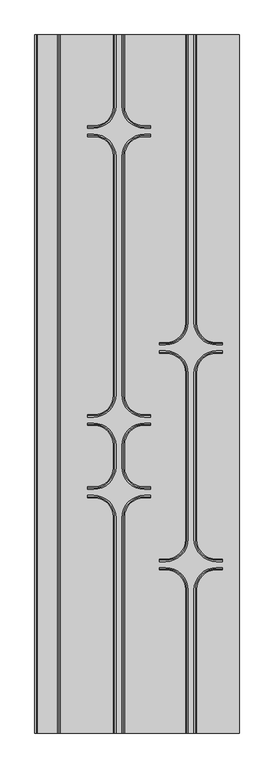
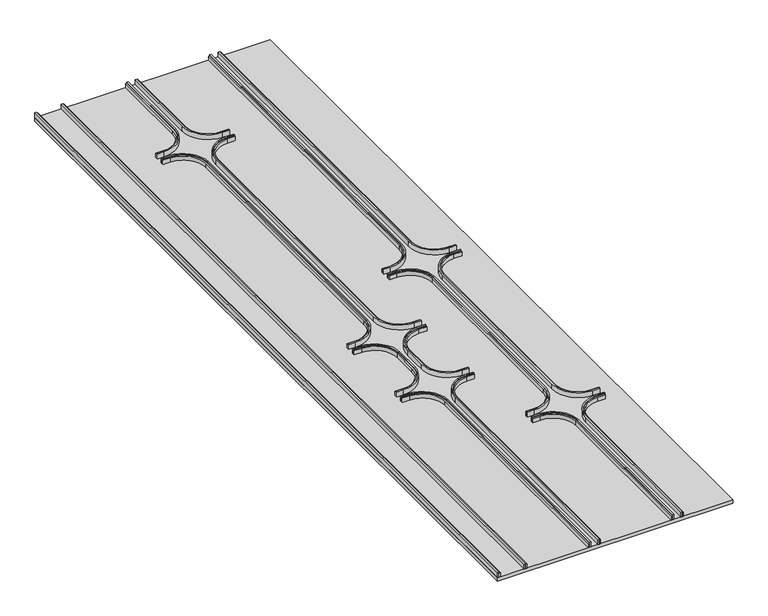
"""IFC4 building model written with IfcOpenShell, lengths in millimetres: proxy geometry, FilzFelt_Ion : Ion C."""

from ifc_helpers import new_model, si_unit, point, frame, frame_2d, origin, origin_with_axes, place, context, project, spatial, polyline, circle_curve, trimmed, segment, composite_curve, outline, extrude, source, transform, mapped, element, save


def specialty_equipment_a84f635a(model_context):
    return source(origin(), model_context, "Body", "SweptSolid", [
        extrude(outline(polyline([(-421.8, 2946.4), (-421.8, 0.0), (-426.8, 0.0), (-426.8, 2946.4), (-421.8, 2946.4)])), frame((0.0, 0.0, 13.0), z_axis=(0.0, 0.0, 1.0), x_axis=(1.0, 0.0, 0.0)), (0.0, 0.0, 1.0), 16.0),
        extrude(outline(composite_curve([segment(trimmed(circle_curve(frame_2d((-182.8, 2646.6)), 88.9), [point((-93.9, 2646.6))], [point((-182.8, 2557.7))], False, "CARTESIAN"), True, "CONTINUOUS"), segment(polyline([(-182.8, 2557.7), (-209.55, 2557.7), (-209.55, 2562.7), (-181.45, 2562.7)]), True, "CONTINUOUS"), segment(trimmed(circle_curve(frame_2d((-181.45, 2645.25)), 82.55), [point((-181.45, 2562.7))], [point((-98.9, 2645.25))], True, "CARTESIAN"), True, "CONTINUOUS"), segment(polyline([(-98.9, 2645.25), (-98.9, 2946.4), (-93.9, 2946.4), (-93.9, 2646.6)]), True, "CONTINUOUS")], self_intersect=False)), frame((0.0, 0.0, 13.0), z_axis=(0.0, 0.0, 1.0), x_axis=(1.0, 0.0, 0.0)), (0.0, 0.0, 1.0), 16.0),
        extrude(outline(composite_curve([segment(trimmed(circle_curve(frame_2d((-182.8, 2433.4)), 88.9), [point((-182.8, 2522.3))], [point((-93.9, 2433.4))], False, "CARTESIAN"), True, "CONTINUOUS"), segment(polyline([(-93.9, 2433.4), (-93.9, 1427.4)]), True, "CONTINUOUS"), segment(trimmed(circle_curve(frame_2d((-182.8, 1427.4)), 88.9), [point((-93.9, 1427.4))], [point((-182.8, 1338.5))], False, "CARTESIAN"), True, "CONTINUOUS"), segment(polyline([(-182.8, 1338.5), (-209.55, 1338.5), (-209.55, 1343.5), (-181.45, 1343.5)]), True, "CONTINUOUS"), segment(trimmed(circle_curve(frame_2d((-181.45, 1426.05)), 82.55), [point((-181.45, 1343.5))], [point((-98.9, 1426.05))], True, "CARTESIAN"), True, "CONTINUOUS"), segment(polyline([(-98.9, 1426.05), (-98.9, 2434.75)]), True, "CONTINUOUS"), segment(trimmed(circle_curve(frame_2d((-181.45, 2434.75)), 82.55), [point((-98.9, 2434.75))], [point((-181.45, 2517.3))], True, "CARTESIAN"), True, "CONTINUOUS"), segment(polyline([(-181.45, 2517.3), (-209.55, 2517.3), (-209.55, 2522.3), (-182.8, 2522.3)]), True, "CONTINUOUS")], self_intersect=False)), frame((0.0, 0.0, 13.0), z_axis=(0.0, 0.0, 1.0), x_axis=(1.0, 0.0, 0.0)), (0.0, 0.0, 1.0), 16.0),
        extrude(outline(composite_curve([segment(trimmed(circle_curve(frame_2d((-182.8, 1122.6)), 88.9), [point((-93.9, 1122.6))], [point((-182.8, 1033.7))], False, "CARTESIAN"), True, "CONTINUOUS"), segment(polyline([(-182.8, 1033.7), (-209.55, 1033.7), (-209.55, 1038.7), (-181.45, 1038.7)]), True, "CONTINUOUS"), segment(trimmed(circle_curve(frame_2d((-181.45, 1121.25)), 82.55), [point((-181.45, 1038.7))], [point((-98.9, 1121.25))], True, "CARTESIAN"), True, "CONTINUOUS"), segment(polyline([(-98.9, 1121.25), (-98.9, 1215.55)]), True, "CONTINUOUS"), segment(trimmed(circle_curve(frame_2d((-181.45, 1215.55)), 82.55), [point((-98.9, 1215.55))], [point((-181.45, 1298.1))], True, "CARTESIAN"), True, "CONTINUOUS"), segment(polyline([(-181.45, 1298.1), (-209.55, 1298.1), (-209.55, 1303.1), (-182.8, 1303.1)]), True, "CONTINUOUS"), segment(trimmed(circle_curve(frame_2d((-182.8, 1214.2)), 88.9), [point((-182.8, 1303.1))], [point((-93.9, 1214.2))], False, "CARTESIAN"), True, "CONTINUOUS"), segment(polyline([(-93.9, 1214.2), (-93.9, 1122.6)]), True, "CONTINUOUS")], self_intersect=False)), frame((0.0, 0.0, 13.0), z_axis=(0.0, 0.0, 1.0), x_axis=(1.0, 0.0, 0.0)), (0.0, 0.0, 1.0), 16.0),
        extrude(outline(composite_curve([segment(trimmed(circle_curve(frame_2d((-182.8, 909.4)), 88.9), [point((-182.8, 998.3))], [point((-93.9, 909.4))], False, "CARTESIAN"), True, "CONTINUOUS"), segment(polyline([(-93.9, 909.4), (-93.9, 0.0), (-98.9, 0.0), (-98.9, 910.75)]), True, "CONTINUOUS"), segment(trimmed(circle_curve(frame_2d((-181.45, 910.75)), 82.55), [point((-98.9, 910.75))], [point((-181.45, 993.3))], True, "CARTESIAN"), True, "CONTINUOUS"), segment(polyline([(-181.45, 993.3), (-209.55, 993.3), (-209.55, 998.3), (-182.8, 998.3)]), True, "CONTINUOUS")], self_intersect=False)), frame((0.0, 0.0, 13.0), z_axis=(0.0, 0.0, 1.0), x_axis=(1.0, 0.0, 0.0)), (0.0, 0.0, 1.0), 16.0),
        extrude(outline(composite_curve([segment(trimmed(circle_curve(frame_2d((122.0, 1732.2)), 88.9), [point((210.9, 1732.2))], [point((122.0, 1643.3))], False, "CARTESIAN"), True, "CONTINUOUS"), segment(polyline([(122.0, 1643.3), (95.25, 1643.3), (95.25, 1648.3), (123.35, 1648.3)]), True, "CONTINUOUS"), segment(trimmed(circle_curve(frame_2d((123.35, 1730.85)), 82.55), [point((123.35, 1648.3))], [point((205.9, 1730.85))], True, "CARTESIAN"), True, "CONTINUOUS"), segment(polyline([(205.9, 1730.85), (205.9, 2946.4), (210.9, 2946.4), (210.9, 1732.2)]), True, "CONTINUOUS")], self_intersect=False)), frame((0.0, 0.0, 13.0), z_axis=(0.0, 0.0, 1.0), x_axis=(1.0, 0.0, 0.0)), (0.0, 0.0, 1.0), 16.0),
        extrude(outline(composite_curve([segment(trimmed(circle_curve(frame_2d((122.0, 1519.0)), 88.9), [point((122.0, 1607.9))], [point((210.9, 1519.0))], False, "CARTESIAN"), True, "CONTINUOUS"), segment(polyline([(210.9, 1519.0), (210.9, 817.8)]), True, "CONTINUOUS"), segment(trimmed(circle_curve(frame_2d((122.0, 817.8)), 88.9), [point((210.9, 817.8))], [point((122.0, 728.9))], False, "CARTESIAN"), True, "CONTINUOUS"), segment(polyline([(122.0, 728.9), (95.25, 728.9), (95.25, 733.9), (123.35, 733.9)]), True, "CONTINUOUS"), segment(trimmed(circle_curve(frame_2d((123.35, 816.45)), 82.55), [point((123.35, 733.9))], [point((205.9, 816.45))], True, "CARTESIAN"), True, "CONTINUOUS"), segment(polyline([(205.9, 816.45), (205.9, 1520.35)]), True, "CONTINUOUS"), segment(trimmed(circle_curve(frame_2d((123.35, 1520.35)), 82.55), [point((205.9, 1520.35))], [point((123.35, 1602.9))], True, "CARTESIAN"), True, "CONTINUOUS"), segment(polyline([(123.35, 1602.9), (95.25, 1602.9), (95.25, 1607.9), (122.0, 1607.9)]), True, "CONTINUOUS")], self_intersect=False)), frame((0.0, 0.0, 13.0), z_axis=(0.0, 0.0, 1.0), x_axis=(1.0, 0.0, 0.0)), (0.0, 0.0, 1.0), 16.0),
        extrude(outline(composite_curve([segment(trimmed(circle_curve(frame_2d((122.0, 604.6)), 88.9), [point((122.0, 693.5))], [point((210.9, 604.6))], False, "CARTESIAN"), True, "CONTINUOUS"), segment(polyline([(210.9, 604.6), (210.9, 0.0), (205.9, 0.0), (205.9, 605.95)]), True, "CONTINUOUS"), segment(trimmed(circle_curve(frame_2d((123.35, 605.95)), 82.55), [point((205.9, 605.95))], [point((123.35, 688.5))], True, "CARTESIAN"), True, "CONTINUOUS"), segment(polyline([(123.35, 688.5), (95.25, 688.5), (95.25, 693.5), (122.0, 693.5)]), True, "CONTINUOUS")], self_intersect=False)), frame((0.0, 0.0, 13.0), z_axis=(0.0, 0.0, 1.0), x_axis=(1.0, 0.0, 0.0)), (0.0, 0.0, 1.0), 16.0),
        extrude(outline(polyline([(-325.2, 2946.4), (-325.2, 0.0), (-330.2, 0.0), (-330.2, 2946.4), (-325.2, 2946.4)])), frame((0.0, 0.0, 13.0), z_axis=(0.0, 0.0, 1.0), x_axis=(1.0, 0.0, 0.0)), (0.0, 0.0, 1.0), 16.0),
        extrude(outline(composite_curve([segment(polyline([(-58.5, 2646.6), (-58.5, 2946.4), (-53.5, 2946.4), (-53.5, 2645.25)]), True, "CONTINUOUS"), segment(trimmed(circle_curve(frame_2d((29.05, 2645.25)), 82.55), [point((-53.5, 2645.25))], [point((29.05, 2562.7))], True, "CARTESIAN"), True, "CONTINUOUS"), segment(polyline([(29.05, 2562.7), (57.15, 2562.7), (57.15, 2557.7), (30.4, 2557.7)]), True, "CONTINUOUS"), segment(trimmed(circle_curve(frame_2d((30.4, 2646.6)), 88.9), [point((30.4, 2557.7))], [point((-58.5, 2646.6))], False, "CARTESIAN"), True, "CONTINUOUS")], self_intersect=False)), frame((0.0, 0.0, 13.0), z_axis=(0.0, 0.0, 1.0), x_axis=(1.0, 0.0, 0.0)), (0.0, 0.0, 1.0), 16.0),
        extrude(outline(composite_curve([segment(polyline([(30.4, 2522.3), (57.15, 2522.3), (57.15, 2517.3), (29.05, 2517.3)]), True, "CONTINUOUS"), segment(trimmed(circle_curve(frame_2d((29.05, 2434.75)), 82.55), [point((29.05, 2517.3))], [point((-53.5, 2434.75))], True, "CARTESIAN"), True, "CONTINUOUS"), segment(polyline([(-53.5, 2434.75), (-53.5, 1426.05)]), True, "CONTINUOUS"), segment(trimmed(circle_curve(frame_2d((29.05, 1426.05)), 82.55), [point((-53.5, 1426.05))], [point((29.05, 1343.5))], True, "CARTESIAN"), True, "CONTINUOUS"), segment(polyline([(29.05, 1343.5), (57.15, 1343.5), (57.15, 1338.5), (30.4, 1338.5)]), True, "CONTINUOUS"), segment(trimmed(circle_curve(frame_2d((30.4, 1427.4)), 88.9), [point((30.4, 1338.5))], [point((-58.5, 1427.4))], False, "CARTESIAN"), True, "CONTINUOUS"), segment(polyline([(-58.5, 1427.4), (-58.5, 2433.4)]), True, "CONTINUOUS"), segment(trimmed(circle_curve(frame_2d((30.4, 2433.4)), 88.9), [point((-58.5, 2433.4))], [point((30.4, 2522.3))], False, "CARTESIAN"), True, "CONTINUOUS")], self_intersect=False)), frame((0.0, 0.0, 13.0), z_axis=(0.0, 0.0, 1.0), x_axis=(1.0, 0.0, 0.0)), (0.0, 0.0, 1.0), 16.0),
        extrude(outline(composite_curve([segment(polyline([(-58.5, 1122.6), (-58.5, 1214.2)]), True, "CONTINUOUS"), segment(trimmed(circle_curve(frame_2d((30.4, 1214.2)), 88.9), [point((-58.5, 1214.2))], [point((30.4, 1303.1))], False, "CARTESIAN"), True, "CONTINUOUS"), segment(polyline([(30.4, 1303.1), (57.15, 1303.1), (57.15, 1298.1), (29.05, 1298.1)]), True, "CONTINUOUS"), segment(trimmed(circle_curve(frame_2d((29.05, 1215.55)), 82.55), [point((29.05, 1298.1))], [point((-53.5, 1215.55))], True, "CARTESIAN"), True, "CONTINUOUS"), segment(polyline([(-53.5, 1215.55), (-53.5, 1121.25)]), True, "CONTINUOUS"), segment(trimmed(circle_curve(frame_2d((29.05, 1121.25)), 82.55), [point((-53.5, 1121.25))], [point((29.05, 1038.7))], True, "CARTESIAN"), True, "CONTINUOUS"), segment(polyline([(29.05, 1038.7), (57.15, 1038.7), (57.15, 1033.7), (30.4, 1033.7)]), True, "CONTINUOUS"), segment(trimmed(circle_curve(frame_2d((30.4, 1122.6)), 88.9), [point((30.4, 1033.7))], [point((-58.5, 1122.6))], False, "CARTESIAN"), True, "CONTINUOUS")], self_intersect=False)), frame((0.0, 0.0, 13.0), z_axis=(0.0, 0.0, 1.0), x_axis=(1.0, 0.0, 0.0)), (0.0, 0.0, 1.0), 16.0),
        extrude(outline(composite_curve([segment(polyline([(30.4, 998.3), (57.15, 998.3), (57.15, 993.3), (29.05, 993.3)]), True, "CONTINUOUS"), segment(trimmed(circle_curve(frame_2d((29.05, 910.75)), 82.55), [point((29.05, 993.3))], [point((-53.5, 910.75))], True, "CARTESIAN"), True, "CONTINUOUS"), segment(polyline([(-53.5, 910.75), (-53.5, 0.0), (-58.5, 0.0), (-58.5, 909.4)]), True, "CONTINUOUS"), segment(trimmed(circle_curve(frame_2d((30.4, 909.4)), 88.9), [point((-58.5, 909.4))], [point((30.4, 998.3))], False, "CARTESIAN"), True, "CONTINUOUS")], self_intersect=False)), frame((0.0, 0.0, 13.0), z_axis=(0.0, 0.0, 1.0), x_axis=(1.0, 0.0, 0.0)), (0.0, 0.0, 1.0), 16.0),
        extrude(outline(composite_curve([segment(polyline([(246.3, 1732.2), (246.3, 2946.4), (251.3, 2946.4), (251.3, 1730.85)]), True, "CONTINUOUS"), segment(trimmed(circle_curve(frame_2d((333.85, 1730.85)), 82.55), [point((251.3, 1730.85))], [point((333.85, 1648.3))], True, "CARTESIAN"), True, "CONTINUOUS"), segment(polyline([(333.85, 1648.3), (361.95, 1648.3), (361.95, 1643.3), (335.2, 1643.3)]), True, "CONTINUOUS"), segment(trimmed(circle_curve(frame_2d((335.2, 1732.2)), 88.9), [point((335.2, 1643.3))], [point((246.3, 1732.2))], False, "CARTESIAN"), True, "CONTINUOUS")], self_intersect=False)), frame((0.0, 0.0, 13.0), z_axis=(0.0, 0.0, 1.0), x_axis=(1.0, 0.0, 0.0)), (0.0, 0.0, 1.0), 16.0),
        extrude(outline(composite_curve([segment(polyline([(335.2, 1607.9), (361.95, 1607.9), (361.95, 1602.9), (333.85, 1602.9)]), True, "CONTINUOUS"), segment(trimmed(circle_curve(frame_2d((333.85, 1520.35)), 82.55), [point((333.85, 1602.9))], [point((251.3, 1520.35))], True, "CARTESIAN"), True, "CONTINUOUS"), segment(polyline([(251.3, 1520.35), (251.3, 816.45)]), True, "CONTINUOUS"), segment(trimmed(circle_curve(frame_2d((333.85, 816.45)), 82.55), [point((251.3, 816.45))], [point((333.85, 733.9))], True, "CARTESIAN"), True, "CONTINUOUS"), segment(polyline([(333.85, 733.9), (361.95, 733.9), (361.95, 728.9), (335.2, 728.9)]), True, "CONTINUOUS"), segment(trimmed(circle_curve(frame_2d((335.2, 817.8)), 88.9), [point((335.2, 728.9))], [point((246.3, 817.8))], False, "CARTESIAN"), True, "CONTINUOUS"), segment(polyline([(246.3, 817.8), (246.3, 1519.0)]), True, "CONTINUOUS"), segment(trimmed(circle_curve(frame_2d((335.2, 1519.0)), 88.9), [point((246.3, 1519.0))], [point((335.2, 1607.9))], False, "CARTESIAN"), True, "CONTINUOUS")], self_intersect=False)), frame((0.0, 0.0, 13.0), z_axis=(0.0, 0.0, 1.0), x_axis=(1.0, 0.0, 0.0)), (0.0, 0.0, 1.0), 16.0),
        extrude(outline(composite_curve([segment(polyline([(335.2, 693.5), (361.95, 693.5), (361.95, 688.5), (333.85, 688.5)]), True, "CONTINUOUS"), segment(trimmed(circle_curve(frame_2d((333.85, 605.95)), 82.55), [point((333.85, 688.5))], [point((251.3, 605.95))], True, "CARTESIAN"), True, "CONTINUOUS"), segment(polyline([(251.3, 605.95), (251.3, 0.0), (246.3, 0.0), (246.3, 604.6)]), True, "CONTINUOUS"), segment(trimmed(circle_curve(frame_2d((335.2, 604.6)), 88.9), [point((246.3, 604.6))], [point((335.2, 693.5))], False, "CARTESIAN"), True, "CONTINUOUS")], self_intersect=False)), frame((0.0, 0.0, 13.0), z_axis=(0.0, 0.0, 1.0), x_axis=(1.0, 0.0, 0.0)), (0.0, 0.0, 1.0), 16.0),
        extrude(outline(polyline([(-426.8, 0.0), (-431.8, 0.0), (-431.8, 2946.4), (-426.8, 2946.4), (-426.8, 0.0)])), frame((0.0, 0.0, 13.0), z_axis=(0.0, 0.0, 1.0), x_axis=(1.0, 0.0, 0.0)), (0.0, 0.0, 1.0), 19.0),
        extrude(outline(composite_curve([segment(polyline([(-93.9, 0.0), (-93.9, 909.4)]), True, "CONTINUOUS"), segment(trimmed(circle_curve(frame_2d((-182.8, 909.4)), 88.9), [point((-93.9, 909.4))], [point((-182.8, 998.3))], True, "CARTESIAN"), True, "CONTINUOUS"), segment(polyline([(-182.8, 998.3), (-209.55, 998.3), (-209.55, 1003.3), (-184.15, 1003.3)]), True, "CONTINUOUS"), segment(trimmed(circle_curve(frame_2d((-184.15, 908.05)), 95.25), [point((-184.15, 1003.3))], [point((-88.9, 908.05))], False, "CARTESIAN"), True, "CONTINUOUS"), segment(polyline([(-88.9, 908.05), (-88.9, 0.0), (-93.9, 0.0)]), True, "CONTINUOUS")], self_intersect=False)), frame((0.0, 0.0, 13.0), z_axis=(0.0, 0.0, 1.0), x_axis=(1.0, 0.0, 0.0)), (0.0, 0.0, 1.0), 19.0),
        extrude(outline(composite_curve([segment(polyline([(-88.9, 1212.85), (-88.9, 1123.95)]), True, "CONTINUOUS"), segment(trimmed(circle_curve(frame_2d((-184.15, 1123.95)), 95.25), [point((-88.9, 1123.95))], [point((-184.15, 1028.7))], False, "CARTESIAN"), True, "CONTINUOUS"), segment(polyline([(-184.15, 1028.7), (-209.55, 1028.7), (-209.55, 1033.7), (-182.8, 1033.7)]), True, "CONTINUOUS"), segment(trimmed(circle_curve(frame_2d((-182.8, 1122.6)), 88.9), [point((-182.8, 1033.7))], [point((-93.9, 1122.6))], True, "CARTESIAN"), True, "CONTINUOUS"), segment(polyline([(-93.9, 1122.6), (-93.9, 1214.2)]), True, "CONTINUOUS"), segment(trimmed(circle_curve(frame_2d((-182.8, 1214.2)), 88.9), [point((-93.9, 1214.2))], [point((-182.8, 1303.1))], True, "CARTESIAN"), True, "CONTINUOUS"), segment(polyline([(-182.8, 1303.1), (-209.55, 1303.1), (-209.55, 1308.1), (-184.15, 1308.1)]), True, "CONTINUOUS"), segment(trimmed(circle_curve(frame_2d((-184.15, 1212.85)), 95.25), [point((-184.15, 1308.1))], [point((-88.9, 1212.85))], False, "CARTESIAN"), True, "CONTINUOUS")], self_intersect=False)), frame((0.0, 0.0, 13.0), z_axis=(0.0, 0.0, 1.0), x_axis=(1.0, 0.0, 0.0)), (0.0, 0.0, 1.0), 19.0),
        extrude(outline(composite_curve([segment(polyline([(-93.9, 1427.4), (-93.9, 2433.4)]), True, "CONTINUOUS"), segment(trimmed(circle_curve(frame_2d((-182.8, 2433.4)), 88.9), [point((-93.9, 2433.4))], [point((-182.8, 2522.3))], True, "CARTESIAN"), True, "CONTINUOUS"), segment(polyline([(-182.8, 2522.3), (-209.55, 2522.3), (-209.55, 2527.3), (-184.15, 2527.3)]), True, "CONTINUOUS"), segment(trimmed(circle_curve(frame_2d((-184.15, 2432.05)), 95.25), [point((-184.15, 2527.3))], [point((-88.9, 2432.05))], False, "CARTESIAN"), True, "CONTINUOUS"), segment(polyline([(-88.9, 2432.05), (-88.9, 1428.75)]), True, "CONTINUOUS"), segment(trimmed(circle_curve(frame_2d((-184.15, 1428.75)), 95.25), [point((-88.9, 1428.75))], [point((-184.15, 1333.5))], False, "CARTESIAN"), True, "CONTINUOUS"), segment(polyline([(-184.15, 1333.5), (-209.55, 1333.5), (-209.55, 1338.5), (-182.8, 1338.5)]), True, "CONTINUOUS"), segment(trimmed(circle_curve(frame_2d((-182.8, 1427.4)), 88.9), [point((-182.8, 1338.5))], [point((-93.9, 1427.4))], True, "CARTESIAN"), True, "CONTINUOUS")], self_intersect=False)), frame((0.0, 0.0, 13.0), z_axis=(0.0, 0.0, 1.0), x_axis=(1.0, 0.0, 0.0)), (0.0, 0.0, 1.0), 19.0),
        extrude(outline(composite_curve([segment(trimmed(circle_curve(frame_2d((-182.8, 2646.6)), 88.9), [point((-182.8, 2557.7))], [point((-93.9, 2646.6))], True, "CARTESIAN"), True, "CONTINUOUS"), segment(polyline([(-93.9, 2646.6), (-93.9, 2946.4), (-88.9, 2946.4), (-88.9, 2647.95)]), True, "CONTINUOUS"), segment(trimmed(circle_curve(frame_2d((-184.15, 2647.95)), 95.25), [point((-88.9, 2647.95))], [point((-184.15, 2552.7))], False, "CARTESIAN"), True, "CONTINUOUS"), segment(polyline([(-184.15, 2552.7), (-209.55, 2552.7), (-209.55, 2557.7), (-182.8, 2557.7)]), True, "CONTINUOUS")], self_intersect=False)), frame((0.0, 0.0, 13.0), z_axis=(0.0, 0.0, 1.0), x_axis=(1.0, 0.0, 0.0)), (0.0, 0.0, 1.0), 19.0),
        extrude(outline(composite_curve([segment(polyline([(210.9, 0.0), (210.9, 604.6)]), True, "CONTINUOUS"), segment(trimmed(circle_curve(frame_2d((122.0, 604.6)), 88.9), [point((210.9, 604.6))], [point((122.0, 693.5))], True, "CARTESIAN"), True, "CONTINUOUS"), segment(polyline([(122.0, 693.5), (95.25, 693.5), (95.25, 698.5), (120.65, 698.5)]), True, "CONTINUOUS"), segment(trimmed(circle_curve(frame_2d((120.65, 603.25)), 95.25), [point((120.65, 698.5))], [point((215.9, 603.25))], False, "CARTESIAN"), True, "CONTINUOUS"), segment(polyline([(215.9, 603.25), (215.9, 0.0), (210.9, 0.0)]), True, "CONTINUOUS")], self_intersect=False)), frame((0.0, 0.0, 13.0), z_axis=(0.0, 0.0, 1.0), x_axis=(1.0, 0.0, 0.0)), (0.0, 0.0, 1.0), 19.0),
        extrude(outline(composite_curve([segment(polyline([(210.9, 817.8), (210.9, 1519.0)]), True, "CONTINUOUS"), segment(trimmed(circle_curve(frame_2d((122.0, 1519.0)), 88.9), [point((210.9, 1519.0))], [point((122.0, 1607.9))], True, "CARTESIAN"), True, "CONTINUOUS"), segment(polyline([(122.0, 1607.9), (95.25, 1607.9), (95.25, 1612.9), (120.65, 1612.9)]), True, "CONTINUOUS"), segment(trimmed(circle_curve(frame_2d((120.65, 1517.65)), 95.25), [point((120.65, 1612.9))], [point((215.9, 1517.65))], False, "CARTESIAN"), True, "CONTINUOUS"), segment(polyline([(215.9, 1517.65), (215.9, 819.15)]), True, "CONTINUOUS"), segment(trimmed(circle_curve(frame_2d((120.65, 819.15)), 95.25), [point((215.9, 819.15))], [point((120.65, 723.9))], False, "CARTESIAN"), True, "CONTINUOUS"), segment(polyline([(120.65, 723.9), (95.25, 723.9), (95.25, 728.9), (122.0, 728.9)]), True, "CONTINUOUS"), segment(trimmed(circle_curve(frame_2d((122.0, 817.8)), 88.9), [point((122.0, 728.9))], [point((210.9, 817.8))], True, "CARTESIAN"), True, "CONTINUOUS")], self_intersect=False)), frame((0.0, 0.0, 13.0), z_axis=(0.0, 0.0, 1.0), x_axis=(1.0, 0.0, 0.0)), (0.0, 0.0, 1.0), 19.0),
        extrude(outline(composite_curve([segment(trimmed(circle_curve(frame_2d((122.0, 1732.2)), 88.9), [point((122.0, 1643.3))], [point((210.9, 1732.2))], True, "CARTESIAN"), True, "CONTINUOUS"), segment(polyline([(210.9, 1732.2), (210.9, 2946.4), (215.9, 2946.4), (215.9, 1733.55)]), True, "CONTINUOUS"), segment(trimmed(circle_curve(frame_2d((120.65, 1733.55)), 95.25), [point((215.9, 1733.55))], [point((120.65, 1638.3))], False, "CARTESIAN"), True, "CONTINUOUS"), segment(polyline([(120.65, 1638.3), (95.25, 1638.3), (95.25, 1643.3), (122.0, 1643.3)]), True, "CONTINUOUS")], self_intersect=False)), frame((0.0, 0.0, 13.0), z_axis=(0.0, 0.0, 1.0), x_axis=(1.0, 0.0, 0.0)), (0.0, 0.0, 1.0), 19.0),
        extrude(outline(polyline([(-335.2, 2946.4), (-330.2, 2946.4), (-330.2, 0.0), (-335.2, 0.0), (-335.2, 2946.4)])), frame((0.0, 0.0, 13.0), z_axis=(0.0, 0.0, 1.0), x_axis=(1.0, 0.0, 0.0)), (0.0, 0.0, 1.0), 19.0),
        extrude(outline(composite_curve([segment(polyline([(-58.5, 0.0), (-63.5, 0.0), (-63.5, 908.05)]), True, "CONTINUOUS"), segment(trimmed(circle_curve(frame_2d((31.75, 908.05)), 95.25), [point((-63.5, 908.05))], [point((31.75, 1003.3))], False, "CARTESIAN"), True, "CONTINUOUS"), segment(polyline([(31.75, 1003.3), (57.15, 1003.3), (57.15, 998.3), (30.4, 998.3)]), True, "CONTINUOUS"), segment(trimmed(circle_curve(frame_2d((30.4, 909.4)), 88.9), [point((30.4, 998.3))], [point((-58.5, 909.4))], True, "CARTESIAN"), True, "CONTINUOUS"), segment(polyline([(-58.5, 909.4), (-58.5, 0.0)]), True, "CONTINUOUS")], self_intersect=False)), frame((0.0, 0.0, 13.0), z_axis=(0.0, 0.0, 1.0), x_axis=(1.0, 0.0, 0.0)), (0.0, 0.0, 1.0), 19.0),
        extrude(outline(composite_curve([segment(trimmed(circle_curve(frame_2d((31.75, 1212.85)), 95.25), [point((-63.5, 1212.85))], [point((31.75, 1308.1))], False, "CARTESIAN"), True, "CONTINUOUS"), segment(polyline([(31.75, 1308.1), (57.15, 1308.1), (57.15, 1303.1), (30.4, 1303.1)]), True, "CONTINUOUS"), segment(trimmed(circle_curve(frame_2d((30.4, 1214.2)), 88.9), [point((30.4, 1303.1))], [point((-58.5, 1214.2))], True, "CARTESIAN"), True, "CONTINUOUS"), segment(polyline([(-58.5, 1214.2), (-58.5, 1122.6)]), True, "CONTINUOUS"), segment(trimmed(circle_curve(frame_2d((30.4, 1122.6)), 88.9), [point((-58.5, 1122.6))], [point((30.4, 1033.7))], True, "CARTESIAN"), True, "CONTINUOUS"), segment(polyline([(30.4, 1033.7), (57.15, 1033.7), (57.15, 1028.7), (31.75, 1028.7)]), True, "CONTINUOUS"), segment(trimmed(circle_curve(frame_2d((31.75, 1123.95)), 95.25), [point((31.75, 1028.7))], [point((-63.5, 1123.95))], False, "CARTESIAN"), True, "CONTINUOUS"), segment(polyline([(-63.5, 1123.95), (-63.5, 1212.85)]), True, "CONTINUOUS")], self_intersect=False)), frame((0.0, 0.0, 13.0), z_axis=(0.0, 0.0, 1.0), x_axis=(1.0, 0.0, 0.0)), (0.0, 0.0, 1.0), 19.0),
        extrude(outline(composite_curve([segment(trimmed(circle_curve(frame_2d((30.4, 1427.4)), 88.9), [point((-58.5, 1427.4))], [point((30.4, 1338.5))], True, "CARTESIAN"), True, "CONTINUOUS"), segment(polyline([(30.4, 1338.5), (57.15, 1338.5), (57.15, 1333.5), (31.75, 1333.5)]), True, "CONTINUOUS"), segment(trimmed(circle_curve(frame_2d((31.75, 1428.75)), 95.25), [point((31.75, 1333.5))], [point((-63.5, 1428.75))], False, "CARTESIAN"), True, "CONTINUOUS"), segment(polyline([(-63.5, 1428.75), (-63.5, 2432.05)]), True, "CONTINUOUS"), segment(trimmed(circle_curve(frame_2d((31.75, 2432.05)), 95.25), [point((-63.5, 2432.05))], [point((31.75, 2527.3))], False, "CARTESIAN"), True, "CONTINUOUS"), segment(polyline([(31.75, 2527.3), (57.15, 2527.3), (57.15, 2522.3), (30.4, 2522.3)]), True, "CONTINUOUS"), segment(trimmed(circle_curve(frame_2d((30.4, 2433.4)), 88.9), [point((30.4, 2522.3))], [point((-58.5, 2433.4))], True, "CARTESIAN"), True, "CONTINUOUS"), segment(polyline([(-58.5, 2433.4), (-58.5, 1427.4)]), True, "CONTINUOUS")], self_intersect=False)), frame((0.0, 0.0, 13.0), z_axis=(0.0, 0.0, 1.0), x_axis=(1.0, 0.0, 0.0)), (0.0, 0.0, 1.0), 19.0),
        extrude(outline(composite_curve([segment(polyline([(30.4, 2557.7), (57.15, 2557.7), (57.15, 2552.7), (31.75, 2552.7)]), True, "CONTINUOUS"), segment(trimmed(circle_curve(frame_2d((31.75, 2647.95)), 95.25), [point((31.75, 2552.7))], [point((-63.5, 2647.95))], False, "CARTESIAN"), True, "CONTINUOUS"), segment(polyline([(-63.5, 2647.95), (-63.5, 2946.4), (-58.5, 2946.4), (-58.5, 2646.6)]), True, "CONTINUOUS"), segment(trimmed(circle_curve(frame_2d((30.4, 2646.6)), 88.9), [point((-58.5, 2646.6))], [point((30.4, 2557.7))], True, "CARTESIAN"), True, "CONTINUOUS")], self_intersect=False)), frame((0.0, 0.0, 13.0), z_axis=(0.0, 0.0, 1.0), x_axis=(1.0, 0.0, 0.0)), (0.0, 0.0, 1.0), 19.0),
        extrude(outline(composite_curve([segment(polyline([(246.3, 0.0), (241.3, 0.0), (241.3, 603.25)]), True, "CONTINUOUS"), segment(trimmed(circle_curve(frame_2d((336.55, 603.25)), 95.25), [point((241.3, 603.25))], [point((336.55, 698.5))], False, "CARTESIAN"), True, "CONTINUOUS"), segment(polyline([(336.55, 698.5), (361.95, 698.5), (361.95, 693.5), (335.2, 693.5)]), True, "CONTINUOUS"), segment(trimmed(circle_curve(frame_2d((335.2, 604.6)), 88.9), [point((335.2, 693.5))], [point((246.3, 604.6))], True, "CARTESIAN"), True, "CONTINUOUS"), segment(polyline([(246.3, 604.6), (246.3, 0.0)]), True, "CONTINUOUS")], self_intersect=False)), frame((0.0, 0.0, 13.0), z_axis=(0.0, 0.0, 1.0), x_axis=(1.0, 0.0, 0.0)), (0.0, 0.0, 1.0), 19.0),
        extrude(outline(composite_curve([segment(trimmed(circle_curve(frame_2d((335.2, 817.8)), 88.9), [point((246.3, 817.8))], [point((335.2, 728.9))], True, "CARTESIAN"), True, "CONTINUOUS"), segment(polyline([(335.2, 728.9), (361.95, 728.9), (361.95, 723.9), (336.55, 723.9)]), True, "CONTINUOUS"), segment(trimmed(circle_curve(frame_2d((336.55, 819.15)), 95.25), [point((336.55, 723.9))], [point((241.3, 819.15))], False, "CARTESIAN"), True, "CONTINUOUS"), segment(polyline([(241.3, 819.15), (241.3, 1517.65)]), True, "CONTINUOUS"), segment(trimmed(circle_curve(frame_2d((336.55, 1517.65)), 95.25), [point((241.3, 1517.65))], [point((336.55, 1612.9))], False, "CARTESIAN"), True, "CONTINUOUS"), segment(polyline([(336.55, 1612.9), (361.95, 1612.9), (361.95, 1607.9), (335.2, 1607.9)]), True, "CONTINUOUS"), segment(trimmed(circle_curve(frame_2d((335.2, 1519.0)), 88.9), [point((335.2, 1607.9))], [point((246.3, 1519.0))], True, "CARTESIAN"), True, "CONTINUOUS"), segment(polyline([(246.3, 1519.0), (246.3, 817.8)]), True, "CONTINUOUS")], self_intersect=False)), frame((0.0, 0.0, 13.0), z_axis=(0.0, 0.0, 1.0), x_axis=(1.0, 0.0, 0.0)), (0.0, 0.0, 1.0), 19.0),
        extrude(outline(composite_curve([segment(polyline([(335.2, 1643.3), (361.95, 1643.3), (361.95, 1638.3), (336.55, 1638.3)]), True, "CONTINUOUS"), segment(trimmed(circle_curve(frame_2d((336.55, 1733.55)), 95.25), [point((336.55, 1638.3))], [point((241.3, 1733.55))], False, "CARTESIAN"), True, "CONTINUOUS"), segment(polyline([(241.3, 1733.55), (241.3, 2946.4), (246.3, 2946.4), (246.3, 1732.2)]), True, "CONTINUOUS"), segment(trimmed(circle_curve(frame_2d((335.2, 1732.2)), 88.9), [point((246.3, 1732.2))], [point((335.2, 1643.3))], True, "CARTESIAN"), True, "CONTINUOUS")], self_intersect=False)), frame((0.0, 0.0, 13.0), z_axis=(0.0, 0.0, 1.0), x_axis=(1.0, 0.0, 0.0)), (0.0, 0.0, 1.0), 19.0),
        extrude(outline(polyline([(-431.8, 0.0), (-431.8, 2946.4), (431.8, 2946.4), (431.8, 0.0), (-431.8, 0.0)])), origin_with_axes(), (0.0, 0.0, 1.0), 13.0),
    ])


if __name__ == "__main__":
    model = new_model("IFC4")
    model_context = context("Model", 3, world=origin())
    ifc_project = project(units=[si_unit("LENGTHUNIT", "METRE", prefix="MILLI")], contexts=[model_context])
    site = spatial("IfcSite", under=ifc_project)
    building = spatial("IfcBuilding", under=site)
    placement = place(None, origin())
    specialty_equipment_shape = specialty_equipment_a84f635a(model_context)
    element("IfcBuildingElementProxy", 1, Name="FilzFelt_Ion : Ion C", ObjectType="FilzFelt_Ion : Ion C", at=placement, inside=building, context=model_context, shape_type="MappedRepresentation", body=[
        mapped(specialty_equipment_shape, transform((0.0, 0.0, 0.0), x_axis=(1.0, 0.0, 0.0), y_axis=(0.0, 1.0, 0.0), z_axis=(0.0, 0.0, 1.0))),
    ])
    save(model, "model.ifc")
